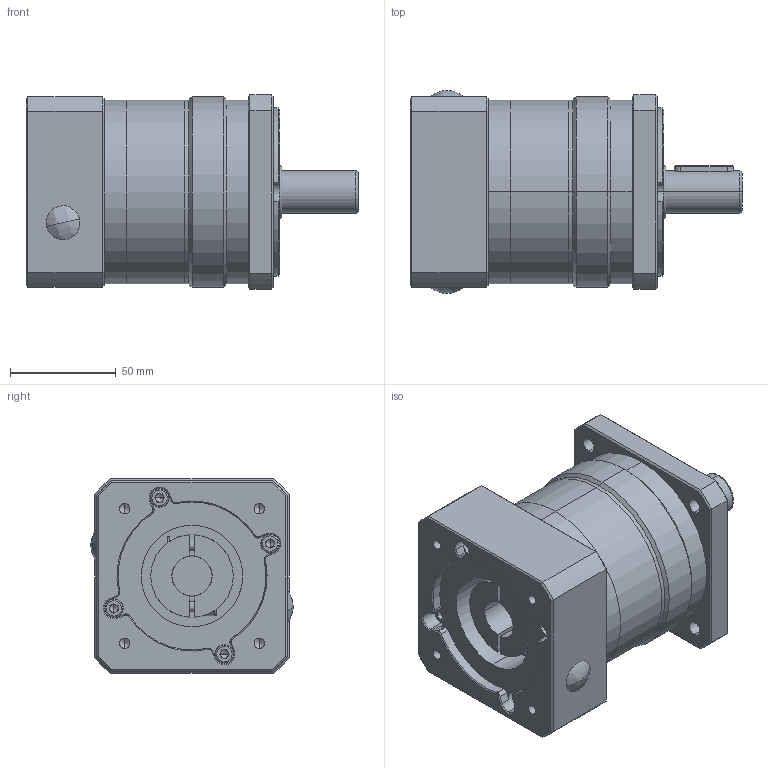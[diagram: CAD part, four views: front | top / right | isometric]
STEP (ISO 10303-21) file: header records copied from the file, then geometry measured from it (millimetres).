
FILE_DESCRIPTION (( 'STEP AP214' ), '1' );
FILE_NAME ('PLF-090-L1-S2-P2 19-70-90-M6.STEP', '2023-08-17T01:46:48', ( '微软用户' ), ( '微软中国' ), 'SwSTEP 2.0', 'SolidWorks 2018', '' );
FILE_SCHEMA (( 'AUTOMOTIVE_DESIGN' ));
Length unit declared in the file: millimetre
Products named in the file (7): PLF-090黑裔; PLF-090怀堤傷裔-俋倛; PLF-090-L1-S2-P2 19-70-90-M6; PLF-090输入端盖-外形70-M6-90; PLF-090薊粣ん-俋倛19; PLF-090一级齿圈-外形; hexagon socket head cap screws gb_GB_FASTENER_SCREWS_HSHCS M5X16-N
Assembly tree (16 placements, depth 2):
  PLF-090-L1-S2-P2 19-70-90-M6
    PLF-090怀堤傷裔-俋倛
    PLF-090一级齿圈-外形
    PLF-090输入端盖-外形70-M6-90
    PLF-090薊粣ん-俋倛19
    hexagon socket head cap screws gb_GB_FASTENER_SCREWS_HSHCS M5X16-N  x10
    PLF-090黑裔  x2
Bounding box: 157 x 95.92 x 92 mm (x, y, z)
Volume: 663270.8 mm3; surface area: 113922.3 mm2
Topology: 17 solids, 17 shells, 571 faces, 1355 edges, 825 vertices
Faces by surface type: plane 247, cylinder 183, cone 103, bspline 38
Entity records: 10655 total; most frequent: CARTESIAN_POINT 2472, DIRECTION 1754, ORIENTED_EDGE 1574, EDGE_CURVE 787, AXIS2_PLACEMENT_3D 704, VERTEX_POINT 496, EDGE_LOOP 387, CIRCLE 373
